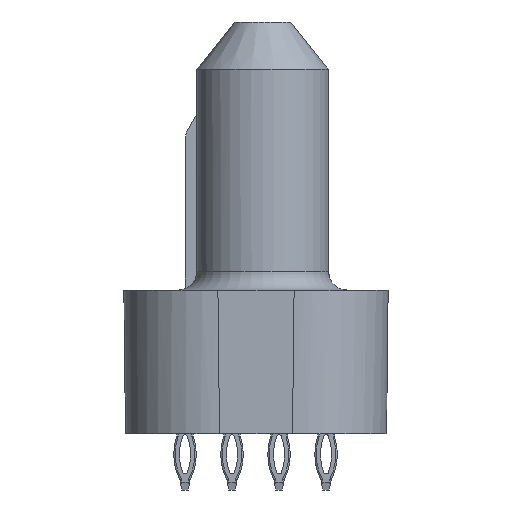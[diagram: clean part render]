
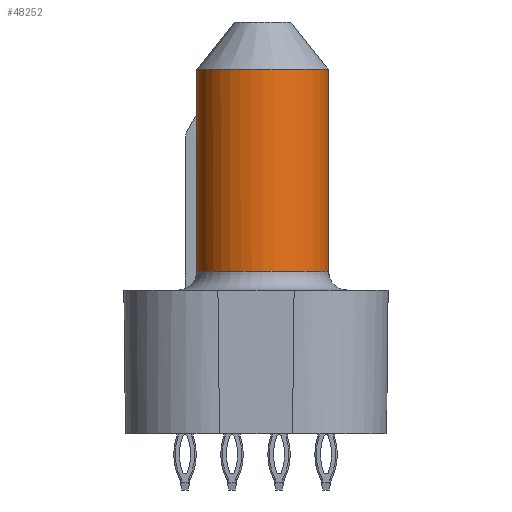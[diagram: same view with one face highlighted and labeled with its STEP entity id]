
A CAD part, left-side view. The second image highlights one B-rep face of the part: STEP entity #48252.
In plain terms, the highlighted cylindrical face has radius 3.5 mm (diameter 7 mm), a partial arc.
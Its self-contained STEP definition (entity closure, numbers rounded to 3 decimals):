
#38959=CYLINDRICAL_SURFACE('',#128381,3.5);
#41775=CIRCLE('',#128370,3.5);
#41776=CIRCLE('',#128371,3.5);
#41777=CIRCLE('',#128372,3.5);
#41780=CIRCLE('',#128379,3.5);
#41781=CIRCLE('',#128380,3.5);
#48252=ADVANCED_FACE('',(#55313),#38959,.T.);
#55313=FACE_OUTER_BOUND('',#60557,.T.);
#60557=EDGE_LOOP('',(#66494,#66495,#66496,#66497,#66498,#66499,#66500));
#66494=ORIENTED_EDGE('',*,*,#102489,.F.);
#66495=ORIENTED_EDGE('',*,*,#102490,.T.);
#66496=ORIENTED_EDGE('',*,*,#102491,.T.);
#66497=ORIENTED_EDGE('',*,*,#102492,.F.);
#66498=ORIENTED_EDGE('',*,*,#102478,.T.);
#66499=ORIENTED_EDGE('',*,*,#102477,.T.);
#66500=ORIENTED_EDGE('',*,*,#102476,.T.);
#94034=VERTEX_POINT('',#172806);
#94037=VERTEX_POINT('',#172812);
#94038=VERTEX_POINT('',#172814);
#94039=VERTEX_POINT('',#172816);
#94046=VERTEX_POINT('',#172839);
#94047=VERTEX_POINT('',#172841);
#94048=VERTEX_POINT('',#172843);
#102476=EDGE_CURVE('',#94038,#94037,#41775,.T.);
#102477=EDGE_CURVE('',#94039,#94038,#41776,.T.);
#102478=EDGE_CURVE('',#94034,#94039,#41777,.T.);
#102489=EDGE_CURVE('',#94046,#94037,#116276,.T.);
#102490=EDGE_CURVE('',#94046,#94047,#41780,.T.);
#102491=EDGE_CURVE('',#94047,#94048,#41781,.T.);
#102492=EDGE_CURVE('',#94034,#94048,#116277,.T.);
#116276=LINE('',#172838,#122370);
#116277=LINE('',#172844,#122371);
#122370=VECTOR('',#141307,1.);
#122371=VECTOR('',#141312,1.);
#128370=AXIS2_PLACEMENT_3D('',#172813,#141281,#141282);
#128371=AXIS2_PLACEMENT_3D('',#172815,#141283,#141284);
#128372=AXIS2_PLACEMENT_3D('',#172817,#141285,#141286);
#128379=AXIS2_PLACEMENT_3D('',#172840,#141308,#141309);
#128380=AXIS2_PLACEMENT_3D('',#172842,#141310,#141311);
#128381=AXIS2_PLACEMENT_3D('',#172845,#141313,#141314);
#141281=DIRECTION('',(0.,0.,1.));
#141282=DIRECTION('',(-1.,0.,0.));
#141283=DIRECTION('',(0.,0.,1.));
#141284=DIRECTION('',(-0.039,0.999,0.));
#141285=DIRECTION('',(0.,0.,1.));
#141286=DIRECTION('',(0.,1.,0.));
#141307=DIRECTION('',(0.,0.,-1.));
#141308=DIRECTION('',(0.,0.,-1.));
#141309=DIRECTION('',(0.,-1.,0.));
#141310=DIRECTION('',(0.,0.,-1.));
#141311=DIRECTION('',(-1.,0.,0.));
#141312=DIRECTION('',(0.,0.,1.));
#141313=DIRECTION('',(0.,0.,1.));
#141314=DIRECTION('',(-1.,0.,0.));
#172806=CARTESIAN_POINT('',(-36.63,3.145,8.63));
#172812=CARTESIAN_POINT('',(-36.63,-3.855,8.63));
#172813=CARTESIAN_POINT('',(-36.63,-0.355,8.63));
#172814=CARTESIAN_POINT('',(-40.13,-0.355,8.63));
#172815=CARTESIAN_POINT('',(-36.63,-0.355,8.63));
#172816=CARTESIAN_POINT('',(-36.766,3.142,8.63));
#172817=CARTESIAN_POINT('',(-36.63,-0.355,8.63));
#172838=CARTESIAN_POINT('',(-36.63,-3.855,19.38));
#172839=CARTESIAN_POINT('',(-36.63,-3.855,19.38));
#172840=CARTESIAN_POINT('',(-36.63,-0.355,19.38));
#172841=CARTESIAN_POINT('',(-40.13,-0.355,19.38));
#172842=CARTESIAN_POINT('',(-36.63,-0.355,19.38));
#172843=CARTESIAN_POINT('',(-36.63,3.145,19.38));
#172844=CARTESIAN_POINT('',(-36.63,3.145,8.63));
#172845=CARTESIAN_POINT('',(-36.63,-0.355,7.63));
